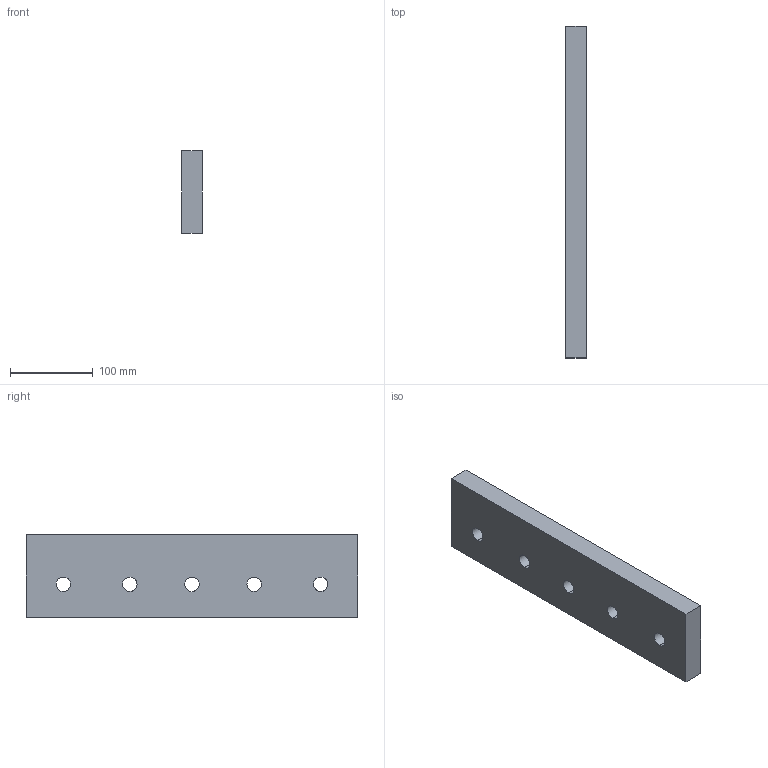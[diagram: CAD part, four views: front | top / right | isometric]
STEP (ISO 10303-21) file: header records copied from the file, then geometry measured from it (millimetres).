
FILE_DESCRIPTION(('CATIA V5 STEP Exchange'),'2;1');
FILE_NAME('C:\Users\Raffaele\Desktop\3D X SITO CF\A612\A611-100-400\A612-100-400.stp','2019-07-12T12:50:35+00:00',('none'),('none'),'CATIA Version 5 Release 20 GA (IN-10)','CATIA V5 STEP AP203','none');
FILE_SCHEMA(('CONFIG_CONTROL_DESIGN'));
Length unit declared in the file: millimetre
Products named in the file (1): A612-100-400
Bounding box: 25 x 400 x 100 mm (x, y, z)
Volume: 969934 mm3; surface area: 109467 mm2
Topology: 1 solids, 1 shells, 16 faces, 62 edges, 48 vertices
Faces by surface type: cylinder 10, plane 6
Entity records: 968 total; most frequent: CARTESIAN_POINT 407, ORIENTED_EDGE 124, DIRECTION 74, EDGE_CURVE 62, VERTEX_POINT 48, AXIS2_PLACEMENT_3D 37, EDGE_LOOP 26, VECTOR 22
